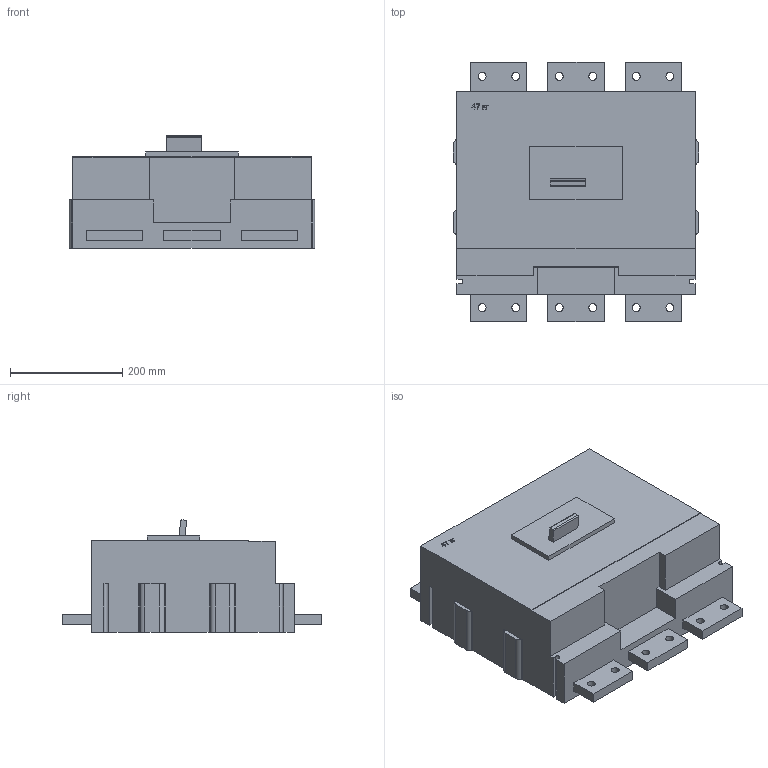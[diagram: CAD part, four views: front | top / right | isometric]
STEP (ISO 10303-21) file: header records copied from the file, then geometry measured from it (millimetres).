
FILE_DESCRIPTION (( 'STEP AP214' ), '1' );
FILE_NAME ('ﾂﾀ 56-43 1600ﾀ.STEP', '2023-02-13T06:25:32', ( '' ), ( '' ), 'SwSTEP 2.0', 'SolidWorks 2018', '' );
FILE_SCHEMA (( 'AUTOMOTIVE_DESIGN' ));
Length unit declared in the file: millimetre
Products named in the file (1): ﾂﾀ 56-43 1600ﾀ
Bounding box: 438 x 462.5 x 200.19 mm (x, y, z)
Volume: 24175697.4 mm3; surface area: 659558.5 mm2
Topology: 1 solids, 1 shells, 125 faces, 376 edges, 266 vertices
Faces by surface type: plane 91, cylinder 34
Full cylindrical faces by diameter (mm): 14 x12
Entity records: 4436 total; most frequent: CARTESIAN_POINT 880, ORIENTED_EDGE 728, DIRECTION 674, EDGE_CURVE 364, VECTOR 286, LINE 286, VERTEX_POINT 266, AXIS2_PLACEMENT_3D 194
